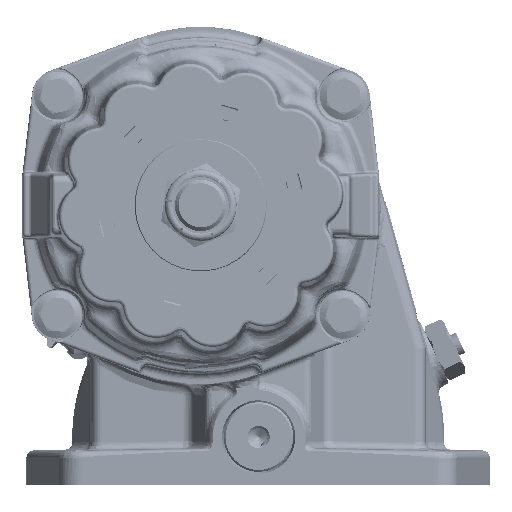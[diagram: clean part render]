
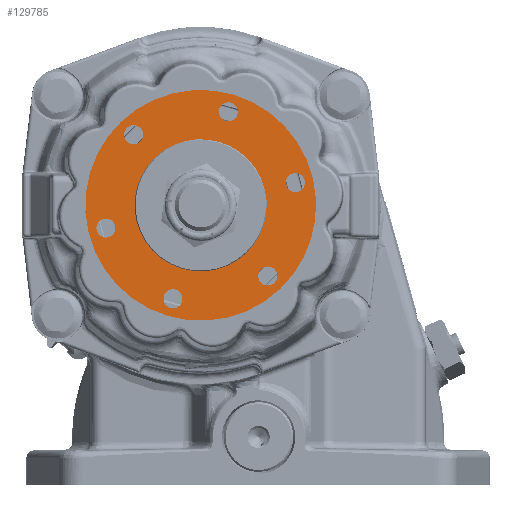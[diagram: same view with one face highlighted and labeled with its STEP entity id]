
A CAD part, left-side view. The second image highlights one B-rep face of the part: STEP entity #129785.
In plain terms, the highlighted planar face has unit normal (-1, 0, 0) as drawn and (1, 0, 0) by its records, which use the part's own axes.
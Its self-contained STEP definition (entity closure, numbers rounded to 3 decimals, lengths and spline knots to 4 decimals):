
#6186=FACE_BOUND('',#22268,.T.);
#6187=FACE_BOUND('',#22269,.T.);
#6188=FACE_BOUND('',#22270,.T.);
#6189=FACE_BOUND('',#22271,.T.);
#6190=FACE_BOUND('',#22272,.T.);
#6191=FACE_BOUND('',#22273,.T.);
#6192=FACE_BOUND('',#22274,.T.);
#8092=PLANE('',#140374);
#14453=FACE_OUTER_BOUND('',#22267,.T.);
#22267=EDGE_LOOP('',(#108432,#108433));
#22268=EDGE_LOOP('',(#108434));
#22269=EDGE_LOOP('',(#108435));
#22270=EDGE_LOOP('',(#108436));
#22271=EDGE_LOOP('',(#108437));
#22272=EDGE_LOOP('',(#108438));
#22273=EDGE_LOOP('',(#108439));
#22274=EDGE_LOOP('',(#108440,#108441));
#28150=CIRCLE('',#140329,0.1615);
#28151=CIRCLE('',#140331,0.1615);
#28152=CIRCLE('',#140333,0.1615);
#28153=CIRCLE('',#140335,0.1615);
#28154=CIRCLE('',#140337,0.1615);
#28155=CIRCLE('',#140339,0.1615);
#28175=CIRCLE('',#140372,1.9585);
#28176=CIRCLE('',#140373,1.9585);
#28177=CIRCLE('',#140375,1.1217);
#28178=CIRCLE('',#140376,1.1217);
#59751=VERTEX_POINT('',#248503);
#59752=VERTEX_POINT('',#248507);
#59753=VERTEX_POINT('',#248511);
#59754=VERTEX_POINT('',#248515);
#59755=VERTEX_POINT('',#248519);
#59756=VERTEX_POINT('',#248523);
#59775=VERTEX_POINT('',#248583);
#59776=VERTEX_POINT('',#248584);
#59777=VERTEX_POINT('',#248589);
#59778=VERTEX_POINT('',#248590);
#76355=EDGE_CURVE('',#59751,#59751,#28150,.T.);
#76357=EDGE_CURVE('',#59752,#59752,#28151,.T.);
#76359=EDGE_CURVE('',#59753,#59753,#28152,.T.);
#76361=EDGE_CURVE('',#59754,#59754,#28153,.T.);
#76363=EDGE_CURVE('',#59755,#59755,#28154,.T.);
#76365=EDGE_CURVE('',#59756,#59756,#28155,.T.);
#76393=EDGE_CURVE('',#59775,#59776,#28175,.T.);
#76394=EDGE_CURVE('',#59776,#59775,#28176,.T.);
#76396=EDGE_CURVE('',#59777,#59778,#28177,.T.);
#76397=EDGE_CURVE('',#59778,#59777,#28178,.T.);
#108432=ORIENTED_EDGE('',*,*,#76393,.T.);
#108433=ORIENTED_EDGE('',*,*,#76394,.T.);
#108434=ORIENTED_EDGE('',*,*,#76355,.T.);
#108435=ORIENTED_EDGE('',*,*,#76357,.T.);
#108436=ORIENTED_EDGE('',*,*,#76359,.T.);
#108437=ORIENTED_EDGE('',*,*,#76361,.T.);
#108438=ORIENTED_EDGE('',*,*,#76363,.T.);
#108439=ORIENTED_EDGE('',*,*,#76365,.T.);
#108440=ORIENTED_EDGE('',*,*,#76396,.F.);
#108441=ORIENTED_EDGE('',*,*,#76397,.F.);
#129785=ADVANCED_FACE('',(#14453,#6186,#6187,#6188,#6189,#6190,#6191,#6192),
#8092,.T.);
#140329=AXIS2_PLACEMENT_3D('',#248504,#163851,#163852);
#140331=AXIS2_PLACEMENT_3D('',#248508,#163856,#163857);
#140333=AXIS2_PLACEMENT_3D('',#248512,#163861,#163862);
#140335=AXIS2_PLACEMENT_3D('',#248516,#163866,#163867);
#140337=AXIS2_PLACEMENT_3D('',#248520,#163871,#163872);
#140339=AXIS2_PLACEMENT_3D('',#248524,#163876,#163877);
#140372=AXIS2_PLACEMENT_3D('',#248585,#163950,#163951);
#140373=AXIS2_PLACEMENT_3D('',#248586,#163952,#163953);
#140374=AXIS2_PLACEMENT_3D('',#248588,#163955,#163956);
#140375=AXIS2_PLACEMENT_3D('',#248591,#163957,#163958);
#140376=AXIS2_PLACEMENT_3D('',#248592,#163959,#163960);
#163851=DIRECTION('center_axis',(-1.,0.,0.));
#163852=DIRECTION('ref_axis',(0.,0.866,0.5));
#163856=DIRECTION('center_axis',(-1.,0.,0.));
#163857=DIRECTION('ref_axis',(0.,0.866,-0.5));
#163861=DIRECTION('center_axis',(-1.,0.,0.));
#163862=DIRECTION('ref_axis',(0.,0.,-1.));
#163866=DIRECTION('center_axis',(-1.,0.,0.));
#163867=DIRECTION('ref_axis',(0.,-0.866,-0.5));
#163871=DIRECTION('center_axis',(-1.,0.,0.));
#163872=DIRECTION('ref_axis',(0.,-0.866,0.5));
#163876=DIRECTION('center_axis',(-1.,0.,0.));
#163877=DIRECTION('ref_axis',(0.,0.,1.));
#163950=DIRECTION('center_axis',(1.,0.,0.));
#163951=DIRECTION('ref_axis',(0.,1.,0.));
#163952=DIRECTION('center_axis',(1.,0.,0.));
#163953=DIRECTION('ref_axis',(0.,1.,0.));
#163955=DIRECTION('center_axis',(1.,0.,0.));
#163956=DIRECTION('ref_axis',(0.,0.,-1.));
#163957=DIRECTION('center_axis',(1.,0.,0.));
#163958=DIRECTION('ref_axis',(0.,1.,0.));
#163959=DIRECTION('center_axis',(1.,0.,0.));
#163960=DIRECTION('ref_axis',(0.,1.,0.));
#248503=CARTESIAN_POINT('',(2.875,0.6869,-1.5127));
#248504=CARTESIAN_POINT('Origin',(2.875,0.8267,-1.432));
#248507=CARTESIAN_POINT('',(2.875,-0.9666,-1.3512));
#248508=CARTESIAN_POINT('Origin',(2.875,-0.8268,-1.432));
#248511=CARTESIAN_POINT('',(2.875,-1.6535,0.1615));
#248512=CARTESIAN_POINT('Origin',(2.875,-1.6535,0.));
#248515=CARTESIAN_POINT('',(2.875,-0.6869,1.5127));
#248516=CARTESIAN_POINT('Origin',(2.875,-0.8268,1.432));
#248519=CARTESIAN_POINT('',(2.875,0.9666,1.3512));
#248520=CARTESIAN_POINT('Origin',(2.875,0.8268,1.432));
#248523=CARTESIAN_POINT('',(2.875,1.6535,-0.1615));
#248524=CARTESIAN_POINT('Origin',(2.875,1.6535,0.));
#248583=CARTESIAN_POINT('',(2.875,1.9585,0.));
#248584=CARTESIAN_POINT('',(2.875,-1.9585,0.));
#248585=CARTESIAN_POINT('Origin',(2.875,0.,0.));
#248586=CARTESIAN_POINT('Origin',(2.875,0.,0.));
#248588=CARTESIAN_POINT('Origin',(2.875,1.5401,0.));
#248589=CARTESIAN_POINT('',(2.875,1.1217,0.));
#248590=CARTESIAN_POINT('',(2.875,-1.1217,0.));
#248591=CARTESIAN_POINT('Origin',(2.875,0.,0.));
#248592=CARTESIAN_POINT('Origin',(2.875,0.,0.));
